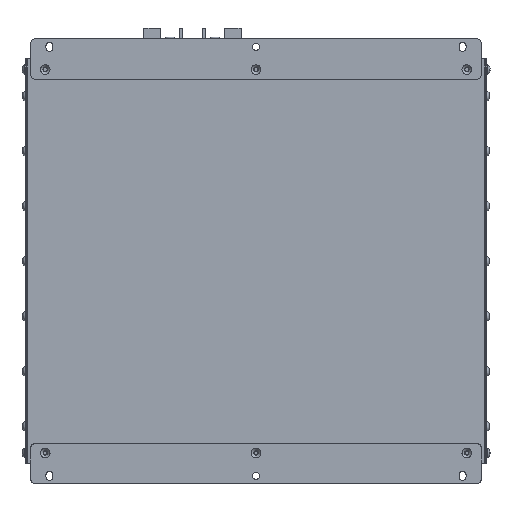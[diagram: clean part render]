
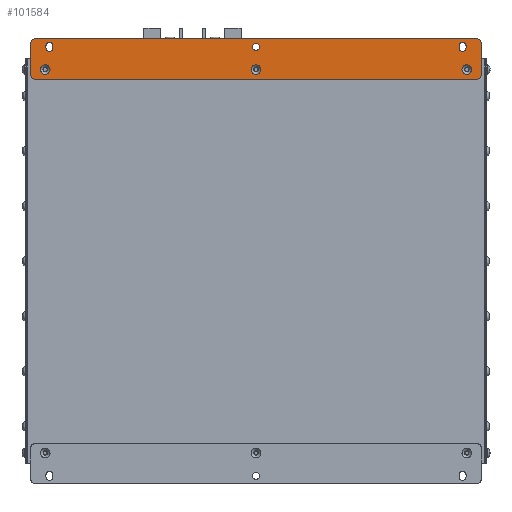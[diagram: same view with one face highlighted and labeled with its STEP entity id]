
A CAD part, front view. The second image highlights one B-rep face of the part: STEP entity #101584.
In plain terms, the highlighted planar face has unit normal (0, -1, 0).
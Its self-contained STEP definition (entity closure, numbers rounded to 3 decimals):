
#11501=FACE_BOUND('',#20413,.T.);
#11502=FACE_BOUND('',#20414,.T.);
#11503=FACE_BOUND('',#20415,.T.);
#11504=FACE_BOUND('',#20416,.T.);
#11505=FACE_BOUND('',#20417,.T.);
#11506=FACE_BOUND('',#20418,.T.);
#12175=PLANE('',#107404);
#14892=FACE_OUTER_BOUND('',#20412,.T.);
#20412=EDGE_LOOP('',(#71453,#71454,#71455,#71456,#71457,#71458,#71459,#71460));
#20413=EDGE_LOOP('',(#71461));
#20414=EDGE_LOOP('',(#71462,#71463,#71464,#71465));
#20415=EDGE_LOOP('',(#71466,#71467,#71468,#71469));
#20416=EDGE_LOOP('',(#71470));
#20417=EDGE_LOOP('',(#71471));
#20418=EDGE_LOOP('',(#71472));
#26606=LINE('',#137667,#35117);
#26607=LINE('',#137671,#35118);
#26608=LINE('',#137675,#35119);
#26609=LINE('',#137678,#35120);
#26610=LINE('',#137685,#35121);
#26611=LINE('',#137688,#35122);
#26612=LINE('',#137693,#35123);
#26613=LINE('',#137696,#35124);
#35117=VECTOR('',#114662,10.);
#35118=VECTOR('',#114665,10.);
#35119=VECTOR('',#114668,10.);
#35120=VECTOR('',#114671,10.);
#35121=VECTOR('',#114676,10.);
#35122=VECTOR('',#114679,10.);
#35123=VECTOR('',#114682,10.);
#35124=VECTOR('',#114685,10.);
#43627=CIRCLE('',#107402,4.55);
#43629=CIRCLE('',#107405,4.);
#43630=CIRCLE('',#107406,4.);
#43631=CIRCLE('',#107407,4.);
#43632=CIRCLE('',#107408,4.);
#43633=CIRCLE('',#107409,4.55);
#43634=CIRCLE('',#107410,3.3);
#43635=CIRCLE('',#107411,3.3);
#43636=CIRCLE('',#107412,3.3);
#43637=CIRCLE('',#107413,3.3);
#43638=CIRCLE('',#107414,3.3);
#43639=CIRCLE('',#107415,4.55);
#46452=VERTEX_POINT('',#137657);
#46454=VERTEX_POINT('',#137663);
#46455=VERTEX_POINT('',#137664);
#46456=VERTEX_POINT('',#137666);
#46457=VERTEX_POINT('',#137668);
#46458=VERTEX_POINT('',#137670);
#46459=VERTEX_POINT('',#137672);
#46460=VERTEX_POINT('',#137674);
#46461=VERTEX_POINT('',#137676);
#46462=VERTEX_POINT('',#137679);
#46463=VERTEX_POINT('',#137681);
#46464=VERTEX_POINT('',#137682);
#46465=VERTEX_POINT('',#137684);
#46466=VERTEX_POINT('',#137686);
#46467=VERTEX_POINT('',#137689);
#46468=VERTEX_POINT('',#137690);
#46469=VERTEX_POINT('',#137692);
#46470=VERTEX_POINT('',#137694);
#46471=VERTEX_POINT('',#137697);
#46472=VERTEX_POINT('',#137699);
#56397=EDGE_CURVE('',#46452,#46452,#43627,.T.);
#56400=EDGE_CURVE('',#46454,#46455,#43629,.T.);
#56401=EDGE_CURVE('',#46456,#46454,#26606,.T.);
#56402=EDGE_CURVE('',#46457,#46456,#43630,.T.);
#56403=EDGE_CURVE('',#46458,#46457,#26607,.T.);
#56404=EDGE_CURVE('',#46459,#46458,#43631,.T.);
#56405=EDGE_CURVE('',#46460,#46459,#26608,.T.);
#56406=EDGE_CURVE('',#46461,#46460,#43632,.T.);
#56407=EDGE_CURVE('',#46455,#46461,#26609,.T.);
#56408=EDGE_CURVE('',#46462,#46462,#43633,.T.);
#56409=EDGE_CURVE('',#46463,#46464,#43634,.T.);
#56410=EDGE_CURVE('',#46464,#46465,#26610,.T.);
#56411=EDGE_CURVE('',#46465,#46466,#43635,.T.);
#56412=EDGE_CURVE('',#46466,#46463,#26611,.T.);
#56413=EDGE_CURVE('',#46467,#46468,#43636,.T.);
#56414=EDGE_CURVE('',#46468,#46469,#26612,.T.);
#56415=EDGE_CURVE('',#46469,#46470,#43637,.T.);
#56416=EDGE_CURVE('',#46470,#46467,#26613,.T.);
#56417=EDGE_CURVE('',#46471,#46471,#43638,.T.);
#56418=EDGE_CURVE('',#46472,#46472,#43639,.T.);
#71453=ORIENTED_EDGE('',*,*,#56400,.F.);
#71454=ORIENTED_EDGE('',*,*,#56401,.F.);
#71455=ORIENTED_EDGE('',*,*,#56402,.F.);
#71456=ORIENTED_EDGE('',*,*,#56403,.F.);
#71457=ORIENTED_EDGE('',*,*,#56404,.F.);
#71458=ORIENTED_EDGE('',*,*,#56405,.F.);
#71459=ORIENTED_EDGE('',*,*,#56406,.F.);
#71460=ORIENTED_EDGE('',*,*,#56407,.F.);
#71461=ORIENTED_EDGE('',*,*,#56408,.F.);
#71462=ORIENTED_EDGE('',*,*,#56409,.T.);
#71463=ORIENTED_EDGE('',*,*,#56410,.T.);
#71464=ORIENTED_EDGE('',*,*,#56411,.T.);
#71465=ORIENTED_EDGE('',*,*,#56412,.T.);
#71466=ORIENTED_EDGE('',*,*,#56413,.T.);
#71467=ORIENTED_EDGE('',*,*,#56414,.T.);
#71468=ORIENTED_EDGE('',*,*,#56415,.T.);
#71469=ORIENTED_EDGE('',*,*,#56416,.T.);
#71470=ORIENTED_EDGE('',*,*,#56417,.T.);
#71471=ORIENTED_EDGE('',*,*,#56418,.F.);
#71472=ORIENTED_EDGE('',*,*,#56397,.F.);
#101584=ADVANCED_FACE('',(#14892,#11501,#11502,#11503,#11504,#11505,#11506),
#12175,.F.);
#107402=AXIS2_PLACEMENT_3D('',#137658,#114653,#114654);
#107404=AXIS2_PLACEMENT_3D('',#137662,#114658,#114659);
#107405=AXIS2_PLACEMENT_3D('',#137665,#114660,#114661);
#107406=AXIS2_PLACEMENT_3D('',#137669,#114663,#114664);
#107407=AXIS2_PLACEMENT_3D('',#137673,#114666,#114667);
#107408=AXIS2_PLACEMENT_3D('',#137677,#114669,#114670);
#107409=AXIS2_PLACEMENT_3D('',#137680,#114672,#114673);
#107410=AXIS2_PLACEMENT_3D('',#137683,#114674,#114675);
#107411=AXIS2_PLACEMENT_3D('',#137687,#114677,#114678);
#107412=AXIS2_PLACEMENT_3D('',#137691,#114680,#114681);
#107413=AXIS2_PLACEMENT_3D('',#137695,#114683,#114684);
#107414=AXIS2_PLACEMENT_3D('',#137698,#114686,#114687);
#107415=AXIS2_PLACEMENT_3D('',#137700,#114688,#114689);
#114653=DIRECTION('center_axis',(0.,-1.,0.));
#114654=DIRECTION('ref_axis',(1.,0.,0.));
#114658=DIRECTION('center_axis',(0.,1.,0.));
#114659=DIRECTION('ref_axis',(0.,0.,1.));
#114660=DIRECTION('center_axis',(0.,1.,0.));
#114661=DIRECTION('ref_axis',(-1.,0.,0.));
#114662=DIRECTION('',(0.,0.,1.));
#114663=DIRECTION('center_axis',(0.,1.,0.));
#114664=DIRECTION('ref_axis',(0.,0.,-1.));
#114665=DIRECTION('',(-1.,0.,0.));
#114666=DIRECTION('center_axis',(0.,1.,0.));
#114667=DIRECTION('ref_axis',(1.,0.,0.));
#114668=DIRECTION('',(0.,0.,-1.));
#114669=DIRECTION('center_axis',(0.,1.,0.));
#114670=DIRECTION('ref_axis',(0.,0.,1.));
#114671=DIRECTION('',(1.,0.,0.));
#114672=DIRECTION('center_axis',(0.,-1.,0.));
#114673=DIRECTION('ref_axis',(1.,0.,0.));
#114674=DIRECTION('center_axis',(0.,1.,0.));
#114675=DIRECTION('ref_axis',(0.,0.,-1.));
#114676=DIRECTION('',(-1.,0.,0.));
#114677=DIRECTION('center_axis',(0.,1.,0.));
#114678=DIRECTION('ref_axis',(0.,0.,1.));
#114679=DIRECTION('',(1.,0.,0.));
#114680=DIRECTION('center_axis',(0.,1.,0.));
#114681=DIRECTION('ref_axis',(0.,0.,-1.));
#114682=DIRECTION('',(-1.,0.,0.));
#114683=DIRECTION('center_axis',(0.,1.,0.));
#114684=DIRECTION('ref_axis',(0.,0.,1.));
#114685=DIRECTION('',(1.,0.,0.));
#114686=DIRECTION('center_axis',(0.,1.,0.));
#114687=DIRECTION('ref_axis',(1.,0.,0.));
#114688=DIRECTION('center_axis',(0.,-1.,0.));
#114689=DIRECTION('ref_axis',(1.,0.,0.));
#137657=CARTESIAN_POINT('',(-81.299,0.,-232.619));
#137658=CARTESIAN_POINT('Origin',(-76.749,0.,-232.619));
#137662=CARTESIAN_POINT('Origin',(-86.749,0.,-232.619));
#137663=CARTESIAN_POINT('',(-105.749,0.,-24.119));
#137664=CARTESIAN_POINT('',(-101.749,0.,-20.119));
#137665=CARTESIAN_POINT('Origin',(-101.749,0.,-24.119));
#137666=CARTESIAN_POINT('',(-105.749,0.,-441.119));
#137667=CARTESIAN_POINT('',(-105.749,0.,-441.119));
#137668=CARTESIAN_POINT('',(-101.749,0.,-445.119));
#137669=CARTESIAN_POINT('Origin',(-101.749,0.,-441.119));
#137670=CARTESIAN_POINT('',(-71.749,0.,-445.119));
#137671=CARTESIAN_POINT('',(-71.749,0.,-445.119));
#137672=CARTESIAN_POINT('',(-67.749,0.,-441.119));
#137673=CARTESIAN_POINT('Origin',(-71.749,0.,-441.119));
#137674=CARTESIAN_POINT('',(-67.749,0.,-24.119));
#137675=CARTESIAN_POINT('',(-67.749,0.,-24.119));
#137676=CARTESIAN_POINT('',(-71.749,0.,-20.119));
#137677=CARTESIAN_POINT('Origin',(-71.749,0.,-24.119));
#137678=CARTESIAN_POINT('',(-101.749,0.,-20.119));
#137679=CARTESIAN_POINT('',(-81.299,0.,-33.619));
#137680=CARTESIAN_POINT('Origin',(-76.749,0.,-33.619));
#137681=CARTESIAN_POINT('',(-97.249,0.,-34.319));
#137682=CARTESIAN_POINT('',(-97.249,0.,-40.919));
#137683=CARTESIAN_POINT('Origin',(-97.249,0.,-37.619));
#137684=CARTESIAN_POINT('',(-99.249,0.,-40.919));
#137685=CARTESIAN_POINT('',(-91.999,0.,-40.919));
#137686=CARTESIAN_POINT('',(-99.249,0.,-34.319));
#137687=CARTESIAN_POINT('Origin',(-99.249,0.,-37.619));
#137688=CARTESIAN_POINT('',(-92.999,0.,-34.319));
#137689=CARTESIAN_POINT('',(-97.249,0.,-424.319));
#137690=CARTESIAN_POINT('',(-97.249,0.,-430.919));
#137691=CARTESIAN_POINT('Origin',(-97.249,0.,-427.619));
#137692=CARTESIAN_POINT('',(-99.249,0.,-430.919));
#137693=CARTESIAN_POINT('',(-91.999,0.,-430.919));
#137694=CARTESIAN_POINT('',(-99.249,0.,-424.319));
#137695=CARTESIAN_POINT('Origin',(-99.249,0.,-427.619));
#137696=CARTESIAN_POINT('',(-92.999,0.,-424.319));
#137697=CARTESIAN_POINT('',(-101.549,0.,-232.619));
#137698=CARTESIAN_POINT('Origin',(-98.249,0.,-232.619));
#137699=CARTESIAN_POINT('',(-81.299,0.,-431.619));
#137700=CARTESIAN_POINT('Origin',(-76.749,0.,-431.619));
